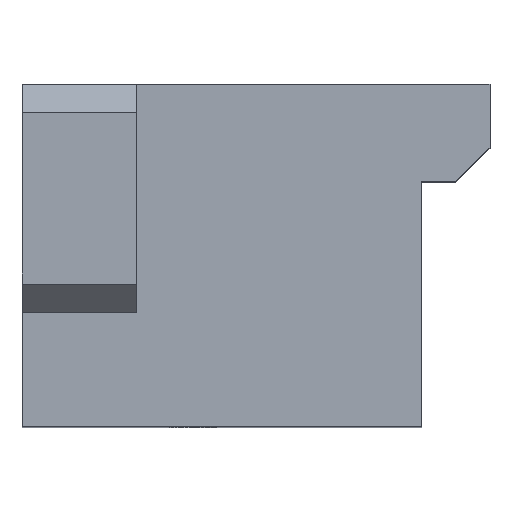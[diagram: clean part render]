
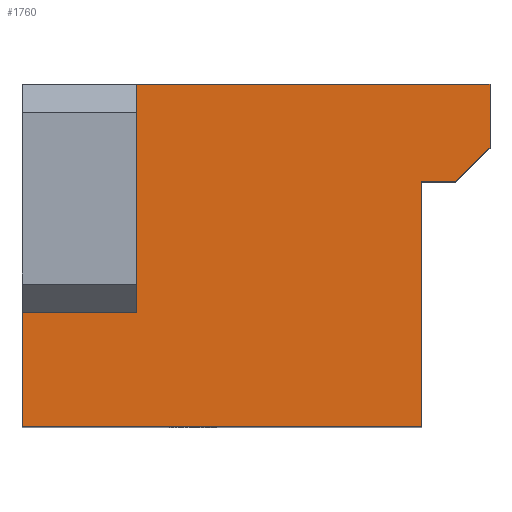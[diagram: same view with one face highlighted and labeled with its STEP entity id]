
A CAD part, top view. The second image highlights one B-rep face of the part: STEP entity #1760.
In plain terms, the highlighted planar face has unit normal (0, 0, 1).
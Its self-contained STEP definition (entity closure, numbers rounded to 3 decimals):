
#30 = VERTEX_POINT ( 'NONE', #331 ) ;
#63 = DIRECTION ( 'NONE',  ( 0., -1., 0. ) ) ;
#115 = DIRECTION ( 'NONE',  ( 0., -1., 0. ) ) ;
#148 = LINE ( 'NONE', #206, #669 ) ;
#205 = VECTOR ( 'NONE', #495, 1000. ) ;
#206 = CARTESIAN_POINT ( 'NONE',  ( 41., 21.5, 19. ) ) ;
#248 = EDGE_CURVE ( 'NONE', #1973, #30, #1704, .T. ) ;
#298 = VECTOR ( 'NONE', #115, 1000. ) ;
#299 = EDGE_LOOP ( 'NONE', ( #355, #1815, #388, #1617, #1493, #348, #407, #1168, #1315 ) ) ;
#308 = LINE ( 'NONE', #1692, #1810 ) ;
#321 = CARTESIAN_POINT ( 'NONE',  ( 0., 10., 19. ) ) ;
#331 = CARTESIAN_POINT ( 'NONE',  ( 41., 30., 19. ) ) ;
#332 = DIRECTION ( 'NONE',  ( 0., 0., -1. ) ) ;
#348 = ORIENTED_EDGE ( 'NONE', *, *, #1105, .T. ) ;
#355 = ORIENTED_EDGE ( 'NONE', *, *, #1047, .F. ) ;
#376 = VECTOR ( 'NONE', #871, 1000. ) ;
#388 = ORIENTED_EDGE ( 'NONE', *, *, #248, .T. ) ;
#407 = ORIENTED_EDGE ( 'NONE', *, *, #1976, .T. ) ;
#434 = CARTESIAN_POINT ( 'NONE',  ( 10., 30., 19. ) ) ;
#437 = LINE ( 'NONE', #492, #205 ) ;
#482 = FACE_OUTER_BOUND ( 'NONE', #299, .T. ) ;
#484 = CARTESIAN_POINT ( 'NONE',  ( 38., 21.5, 19. ) ) ;
#492 = CARTESIAN_POINT ( 'NONE',  ( 0., 30., 19. ) ) ;
#494 = AXIS2_PLACEMENT_3D ( 'NONE', #1726, #332, #716 ) ;
#495 = DIRECTION ( 'NONE',  ( -1., 0., 0. ) ) ;
#563 = DIRECTION ( 'NONE',  ( 1., 0., 0. ) ) ;
#625 = VECTOR ( 'NONE', #63, 1000. ) ;
#636 = CARTESIAN_POINT ( 'NONE',  ( 41., 24.5, 19. ) ) ;
#669 = VECTOR ( 'NONE', #1819, 1000. ) ;
#689 = VERTEX_POINT ( 'NONE', #321 ) ;
#700 = VERTEX_POINT ( 'NONE', #1734 ) ;
#716 = DIRECTION ( 'NONE',  ( -1., 0., 0. ) ) ;
#745 = VERTEX_POINT ( 'NONE', #484 ) ;
#782 = DIRECTION ( 'NONE',  ( 0.707, 0.707, 0. ) ) ;
#789 = DIRECTION ( 'NONE',  ( -1., 0., 0. ) ) ;
#871 = DIRECTION ( 'NONE',  ( 0., 1., 0. ) ) ;
#888 = CARTESIAN_POINT ( 'NONE',  ( 41., 0., 19. ) ) ;
#937 = LINE ( 'NONE', #1079, #1316 ) ;
#940 = CARTESIAN_POINT ( 'NONE',  ( 10., 10., 19. ) ) ;
#1047 = EDGE_CURVE ( 'NONE', #745, #700, #148, .T. ) ;
#1048 = CARTESIAN_POINT ( 'NONE',  ( 10., 30., 19. ) ) ;
#1075 = LINE ( 'NONE', #1615, #1426 ) ;
#1079 = CARTESIAN_POINT ( 'NONE',  ( 10., 10., 19. ) ) ;
#1081 = VERTEX_POINT ( 'NONE', #940 ) ;
#1090 = DIRECTION ( 'NONE',  ( 0., -1., 0. ) ) ;
#1105 = EDGE_CURVE ( 'NONE', #1081, #689, #937, .T. ) ;
#1115 = LINE ( 'NONE', #1548, #625 ) ;
#1168 = ORIENTED_EDGE ( 'NONE', *, *, #1871, .T. ) ;
#1238 = EDGE_CURVE ( 'NONE', #30, #1640, #437, .T. ) ;
#1248 = VERTEX_POINT ( 'NONE', #1352 ) ;
#1259 = EDGE_CURVE ( 'NONE', #1640, #1081, #1642, .T. ) ;
#1315 = ORIENTED_EDGE ( 'NONE', *, *, #1832, .F. ) ;
#1316 = VECTOR ( 'NONE', #789, 1000. ) ;
#1352 = CARTESIAN_POINT ( 'NONE',  ( 0., 0., 19. ) ) ;
#1386 = CARTESIAN_POINT ( 'NONE',  ( 38., 21.5, 19. ) ) ;
#1412 = PLANE ( 'NONE',  #494 ) ;
#1426 = VECTOR ( 'NONE', #563, 1000. ) ;
#1493 = ORIENTED_EDGE ( 'NONE', *, *, #1259, .T. ) ;
#1548 = CARTESIAN_POINT ( 'NONE',  ( 35., 0., 19. ) ) ;
#1615 = CARTESIAN_POINT ( 'NONE',  ( 0., 0., 19. ) ) ;
#1617 = ORIENTED_EDGE ( 'NONE', *, *, #1238, .T. ) ;
#1640 = VERTEX_POINT ( 'NONE', #1048 ) ;
#1642 = LINE ( 'NONE', #434, #298 ) ;
#1692 = CARTESIAN_POINT ( 'NONE',  ( 0., 0., 19. ) ) ;
#1704 = LINE ( 'NONE', #888, #376 ) ;
#1726 = CARTESIAN_POINT ( 'NONE',  ( 0., 0., 19. ) ) ;
#1734 = CARTESIAN_POINT ( 'NONE',  ( 35., 21.5, 19. ) ) ;
#1760 = ADVANCED_FACE ( 'NONE', ( #482 ), #1412, .F. ) ;
#1791 = CARTESIAN_POINT ( 'NONE',  ( 35., 0., 19. ) ) ;
#1810 = VECTOR ( 'NONE', #1090, 1000. ) ;
#1815 = ORIENTED_EDGE ( 'NONE', *, *, #1962, .T. ) ;
#1819 = DIRECTION ( 'NONE',  ( -1., 0., 0. ) ) ;
#1832 = EDGE_CURVE ( 'NONE', #700, #1872, #1115, .T. ) ;
#1857 = VECTOR ( 'NONE', #782, 1000. ) ;
#1871 = EDGE_CURVE ( 'NONE', #1248, #1872, #1075, .T. ) ;
#1872 = VERTEX_POINT ( 'NONE', #1791 ) ;
#1947 = LINE ( 'NONE', #1386, #1857 ) ;
#1962 = EDGE_CURVE ( 'NONE', #745, #1973, #1947, .T. ) ;
#1973 = VERTEX_POINT ( 'NONE', #636 ) ;
#1976 = EDGE_CURVE ( 'NONE', #689, #1248, #308, .T. ) ;
